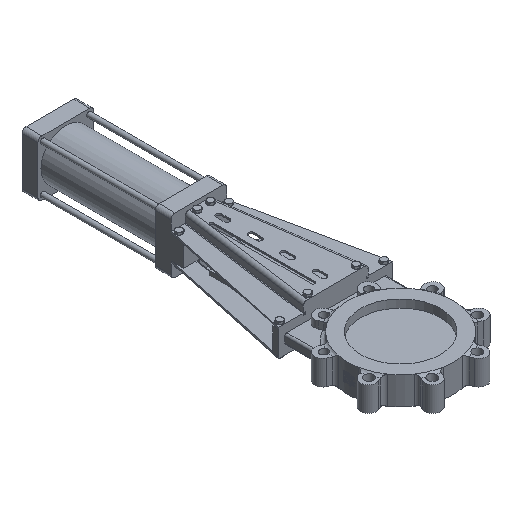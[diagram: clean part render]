
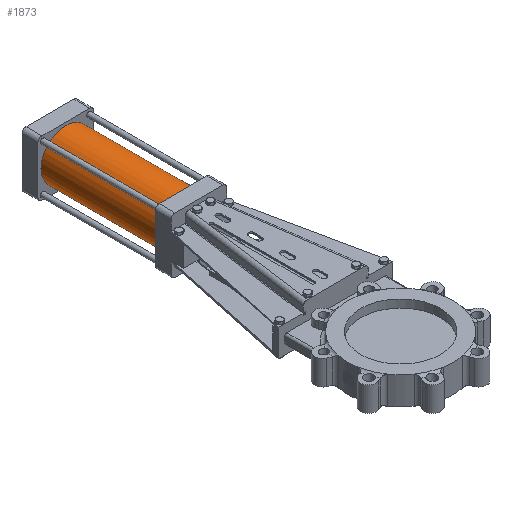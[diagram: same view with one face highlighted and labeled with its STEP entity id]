
A CAD part, isometric view. The second image highlights one B-rep face of the part: STEP entity #1873.
In plain terms, the highlighted cylindrical face has radius 62.5 mm (diameter 125 mm), a full revolution.
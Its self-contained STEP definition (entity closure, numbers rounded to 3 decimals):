
#1873=ADVANCED_FACE('',(#9570,#9572),#9574,.T.);
#9570=FACE_OUTER_BOUND('',#9571,.T.);
#9571=EDGE_LOOP('',(#15477));
#9572=FACE_OUTER_BOUND('',#9573,.T.);
#9573=EDGE_LOOP('',(#15478));
#9574=CYLINDRICAL_SURFACE('',#9575,62.5);
#9575=AXIS2_PLACEMENT_3D('',#9576,#9577,#9578);
#9576=CARTESIAN_POINT('',(0.,546.,0.));
#9577=DIRECTION('',(0.,1.,0.));
#9578=DIRECTION('',(0.,0.,1.));
#15477=ORIENTED_EDGE('',*,*,#19986,.F.);
#15478=ORIENTED_EDGE('',*,*,#19640,.T.);
#19640=EDGE_CURVE('',#22123,#22123,#22124,.T.);
#19986=EDGE_CURVE('',#22705,#22705,#22706,.T.);
#22123=VERTEX_POINT('',#26544);
#22124=CIRCLE('',#26545,62.5);
#22705=VERTEX_POINT('',#29232);
#22706=CIRCLE('',#29233,62.5);
#26544=CARTESIAN_POINT('',(0.,546.,62.5));
#26545=AXIS2_PLACEMENT_3D('',#26546,#26547,#26548);
#26546=CARTESIAN_POINT('',(0.,546.,0.));
#26547=DIRECTION('',(0.,1.,0.));
#26548=DIRECTION('',(0.,0.,1.));
#29232=CARTESIAN_POINT('',(0.,840.,62.5));
#29233=AXIS2_PLACEMENT_3D('',#29234,#29235,#29236);
#29234=CARTESIAN_POINT('',(0.,840.,0.));
#29235=DIRECTION('',(0.,1.,0.));
#29236=DIRECTION('',(0.,0.,1.));
